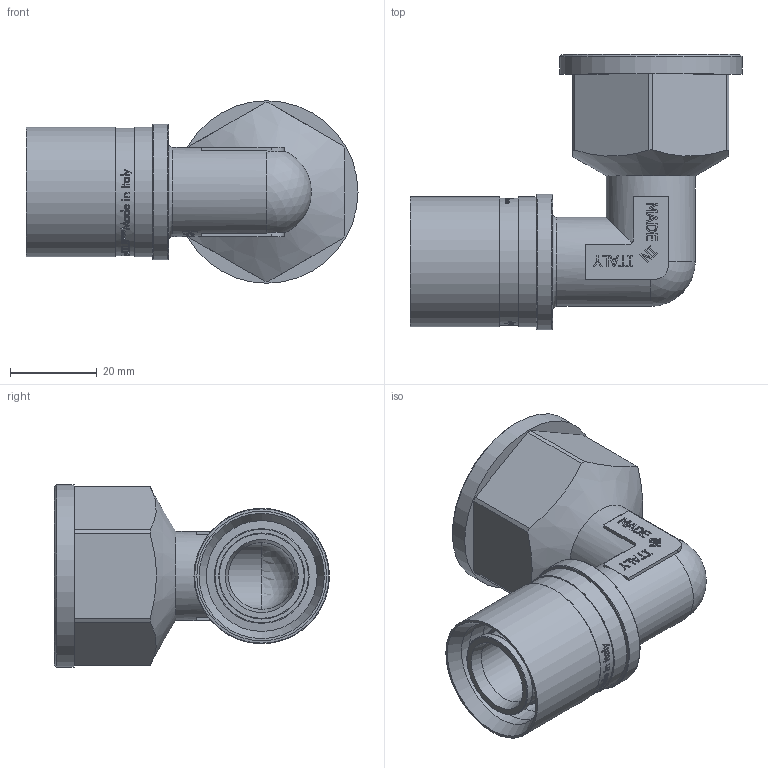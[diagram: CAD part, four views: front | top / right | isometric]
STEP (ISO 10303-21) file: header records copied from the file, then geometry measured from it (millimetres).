
FILE_DESCRIPTION(/* description */ (''),/* implementation_level */ '2;1');
FILE_NAME(/* name */ 'F:\Артём\00000\Работа удаленка\Аксеальные фитинги\VTm.452.BG.002506.stp',/* time_stamp */ '2021-01-27T11:29:43+03:00',/* author */ ('almis'),/* organization */ (''),/* preprocessor_version */ 'ST-DEVELOPER v18',/* originating_system */ 'Autodesk Inventor 2020',/* authorisation */ '');
FILE_SCHEMA (('AUTOMOTIVE_DESIGN { 1 0 10303 214 3 1 1 }'));
Length unit declared in the file: millimetre
Products named in the file (1): VTm.403.BG.001616
Bounding box: 76.41 x 63.3 x 42 mm (x, y, z)
Volume: 29257.9 mm3; surface area: 25073.9 mm2
Topology: 1 solids, 1 shells, 1057 faces, 2906 edges, 1951 vertices
Faces by surface type: bspline 459, plane 446, cylinder 117, torus 23, cone 10, sphere 2
Full cylindrical faces by diameter (mm): 15.4 x2, 18.3 x5, 19.8 x4, 20.5 x2, 21.8 x1, 25.5 x2, 29.3 x1, 29.85 x2, 30.3 x7, 31.2 x1, 34.9 x10, 42 x1
Entity records: 44038 total; most frequent: CARTESIAN_POINT 19868, ORIENTED_EDGE 5808, DIRECTION 3593, EDGE_CURVE 2904, VERTEX_POINT 1951, LINE 1479, VECTOR 1479, EDGE_LOOP 1161
